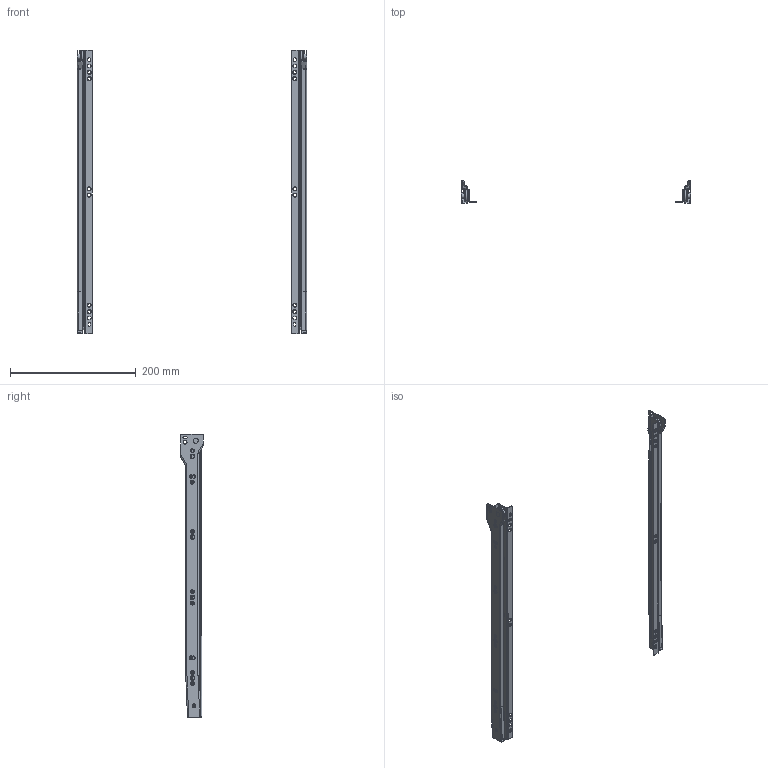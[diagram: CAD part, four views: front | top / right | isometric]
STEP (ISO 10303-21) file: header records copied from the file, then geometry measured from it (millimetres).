
FILE_DESCRIPTION(/* description */ (''),/* implementation_level */ '2;1');
FILE_NAME(/* name */ 'D:\$Workingspace\Designs\Katalog\Cadsoft\GTV Prowadnice\Prowadnice GTV_bryły 3D\PR-0B-450-10.stp',/* time_stamp */ '2016-11-22T15:17:01+01:00',/* author */ ('tomaszw'),/* organization */ (''),/* preprocessor_version */ 'ST-DEVELOPER v16.1',/* originating_system */ 'Autodesk Inventor 2016',/* authorisation */ '');
FILE_SCHEMA (('AUTOMOTIVE_DESIGN { 1 0 10303 214 3 1 1 }'));
Length unit declared in the file: millimetre
Products named in the file (5): PR-0B-450-10_CL; PR-0B-450-10_CR; PR-0B-450-10_DL; PR-0B-450-10_DR; PR-0B
Assembly tree (4 placements, depth 2):
  PR-0B
    PR-0B-450-10_CL
    PR-0B-450-10_CR
    PR-0B-450-10_DL
    PR-0B-450-10_DR
Bounding box: 364 x 36 x 450.02 mm (x, y, z)
Volume: 65361 mm3; surface area: 139157.4 mm2
Topology: 4 solids, 4 shells, 428 faces, 1070 edges, 662 vertices
Faces by surface type: cylinder 186, plane 154, cone 52, torus 28, sphere 8
Full cylindrical faces by diameter (mm): 5 x4, 5.2 x22, 5.4 x10, 6.2 x8, 7 x4, 8 x4, 18.5 x4
Entity records: 13032 total; most frequent: DIRECTION 2256, CARTESIAN_POINT 2213, ORIENTED_EDGE 1908, EDGE_CURVE 954, AXIS2_PLACEMENT_3D 873, EDGE_LOOP 664, VERTEX_POINT 654, LINE 510
